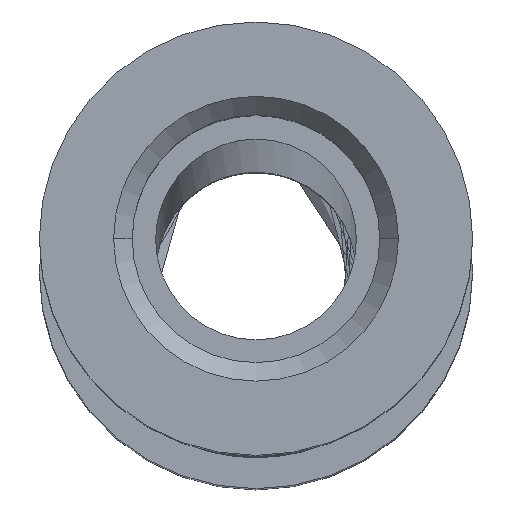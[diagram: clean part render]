
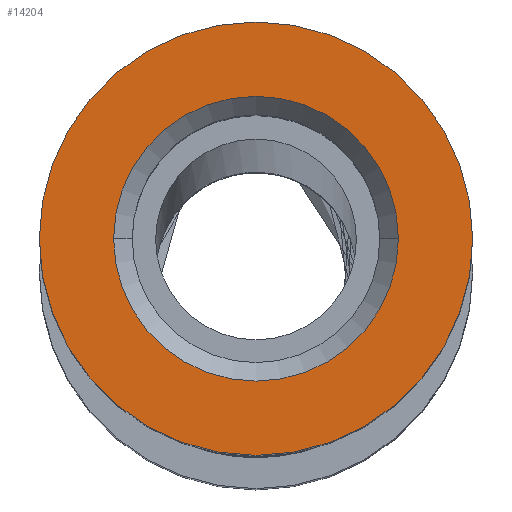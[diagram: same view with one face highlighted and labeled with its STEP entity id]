
A CAD part, top view. The second image highlights one B-rep face of the part: STEP entity #14204.
In plain terms, the highlighted planar face has unit normal (0, 0, 1).
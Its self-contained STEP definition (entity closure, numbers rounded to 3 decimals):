
#102 = ORIENTED_EDGE ( 'NONE', *, *, #14014, .T. ) ;
#263 = EDGE_CURVE ( 'NONE', #21735, #15180, #18446, .T. ) ;
#295 = CARTESIAN_POINT ( 'NONE',  ( -163.501, 0., 160.001 ) ) ;
#614 = CARTESIAN_POINT ( 'NONE',  ( -162.301, 0., 160.001 ) ) ;
#2235 = AXIS2_PLACEMENT_3D ( 'NONE', #8620, #12156, #20664 ) ;
#2713 = CARTESIAN_POINT ( 'NONE',  ( -160.001, 0., 160.001 ) ) ;
#2853 = FACE_OUTER_BOUND ( 'NONE', #18308, .T. ) ;
#2919 = EDGE_CURVE ( 'NONE', #13709, #12216, #16281, .T. ) ;
#4229 = DIRECTION ( 'NONE',  ( 0., 0., -1. ) ) ;
#4445 = DIRECTION ( 'NONE',  ( -1., 0., 0. ) ) ;
#4841 = AXIS2_PLACEMENT_3D ( 'NONE', #8180, #20222, #20382 ) ;
#5542 = CIRCLE ( 'NONE', #13716, 3.5 ) ;
#5608 = ORIENTED_EDGE ( 'NONE', *, *, #2919, .T. ) ;
#6292 = CARTESIAN_POINT ( 'NONE',  ( -157.701, 0., 160.001 ) ) ;
#6473 = PLANE ( 'NONE',  #21947 ) ;
#6795 = CARTESIAN_POINT ( 'NONE',  ( -156.501, 0., 160.001 ) ) ;
#7717 = CIRCLE ( 'NONE', #2235, 2.3 ) ;
#8180 = CARTESIAN_POINT ( 'NONE',  ( -160.001, 0., 160.001 ) ) ;
#8229 = FACE_BOUND ( 'NONE', #14873, .T. ) ;
#8620 = CARTESIAN_POINT ( 'NONE',  ( -160.001, 0., 160.001 ) ) ;
#9475 = CARTESIAN_POINT ( 'NONE',  ( -160.001, 0., 160.001 ) ) ;
#10431 = ORIENTED_EDGE ( 'NONE', *, *, #14729, .F. ) ;
#11541 = DIRECTION ( 'NONE',  ( -1., 0., 0. ) ) ;
#12129 = DIRECTION ( 'NONE',  ( 0., 0., -1. ) ) ;
#12156 = DIRECTION ( 'NONE',  ( 0., 0., -1. ) ) ;
#12216 = VERTEX_POINT ( 'NONE', #614 ) ;
#13709 = VERTEX_POINT ( 'NONE', #6292 ) ;
#13716 = AXIS2_PLACEMENT_3D ( 'NONE', #2713, #14753, #4445 ) ;
#14014 = EDGE_CURVE ( 'NONE', #12216, #13709, #7717, .T. ) ;
#14204 = ADVANCED_FACE ( 'NONE', ( #8229, #2853 ), #6473, .F. ) ;
#14729 = EDGE_CURVE ( 'NONE', #15180, #21735, #5542, .T. ) ;
#14753 = DIRECTION ( 'NONE',  ( 0., 0., -1. ) ) ;
#14873 = EDGE_LOOP ( 'NONE', ( #5608, #102 ) ) ;
#15148 = CARTESIAN_POINT ( 'NONE',  ( -160.001, 3.5, 160.001 ) ) ;
#15180 = VERTEX_POINT ( 'NONE', #6795 ) ;
#16281 = CIRCLE ( 'NONE', #20372, 2.3 ) ;
#18002 = DIRECTION ( 'NONE',  ( -1., 0., 0. ) ) ;
#18308 = EDGE_LOOP ( 'NONE', ( #19136, #10431 ) ) ;
#18446 = CIRCLE ( 'NONE', #4841, 3.5 ) ;
#19136 = ORIENTED_EDGE ( 'NONE', *, *, #263, .F. ) ;
#20222 = DIRECTION ( 'NONE',  ( 0., 0., -1. ) ) ;
#20372 = AXIS2_PLACEMENT_3D ( 'NONE', #9475, #4229, #18002 ) ;
#20382 = DIRECTION ( 'NONE',  ( -1., 0., 0. ) ) ;
#20664 = DIRECTION ( 'NONE',  ( -1., 0., 0. ) ) ;
#21735 = VERTEX_POINT ( 'NONE', #295 ) ;
#21947 = AXIS2_PLACEMENT_3D ( 'NONE', #15148, #12129, #11541 ) ;
